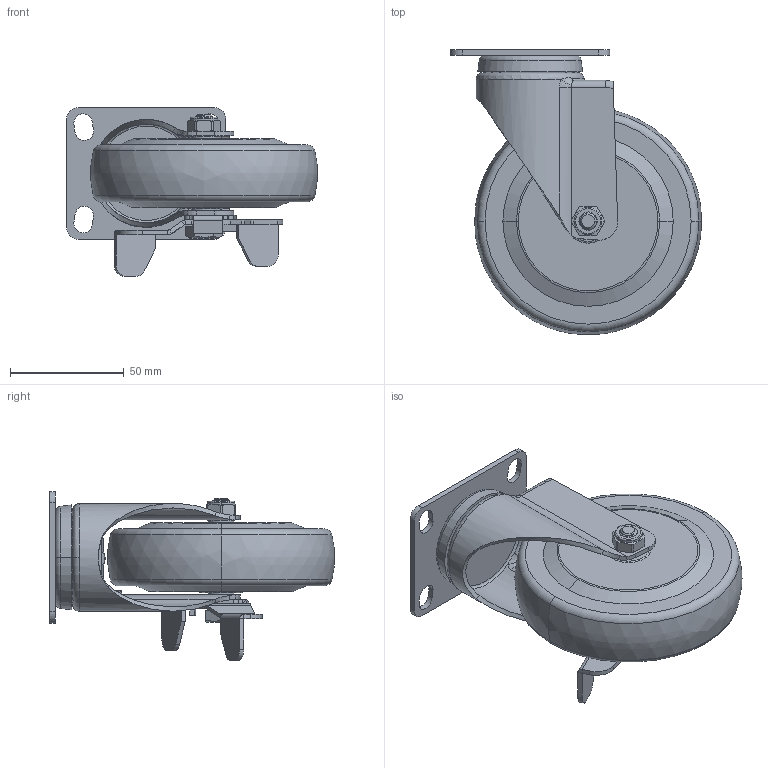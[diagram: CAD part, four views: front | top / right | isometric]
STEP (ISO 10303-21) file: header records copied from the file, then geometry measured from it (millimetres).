
FILE_DESCRIPTION((''),'2;1');
FILE_NAME('36124C-364-64_ASM','2020-01-05T',('L'),(''),'PRO/ENGINEER BY PARAMETRIC TECHNOLOGY CORPORATION, 2010280','PRO/ENGINEER BY PARAMETRIC TECHNOLOGY CORPORATION, 2010280','');
FILE_SCHEMA(('CONFIG_CONTROL_DESIGN'));
Length unit declared in the file: millimetre
Products named in the file (7): 36124C; 364-964; 302-33; 300-34; 304-15; 300-14; 36124C-364-64_ASM
Assembly tree (6 placements, depth 2):
  36124C-364-64_ASM
    36124C
    364-964
    302-33
    300-34
    304-15
    300-14
Bounding box: 110.36 x 125.36 x 74.4 mm (x, y, z)
Volume: 255404.4 mm3; surface area: 58503 mm2
Topology: 7 solids, 7 shells, 364 faces, 870 edges, 534 vertices
Faces by surface type: plane 143, cylinder 123, bspline 46, torus 30, cone 22
Entity records: 16049 total; most frequent: CARTESIAN_POINT 7656, ORIENTED_EDGE 1740, DIRECTION 1664, EDGE_CURVE 870, AXIS2_PLACEMENT_3D 619, VERTEX_POINT 534, VECTOR 426, LINE 426
